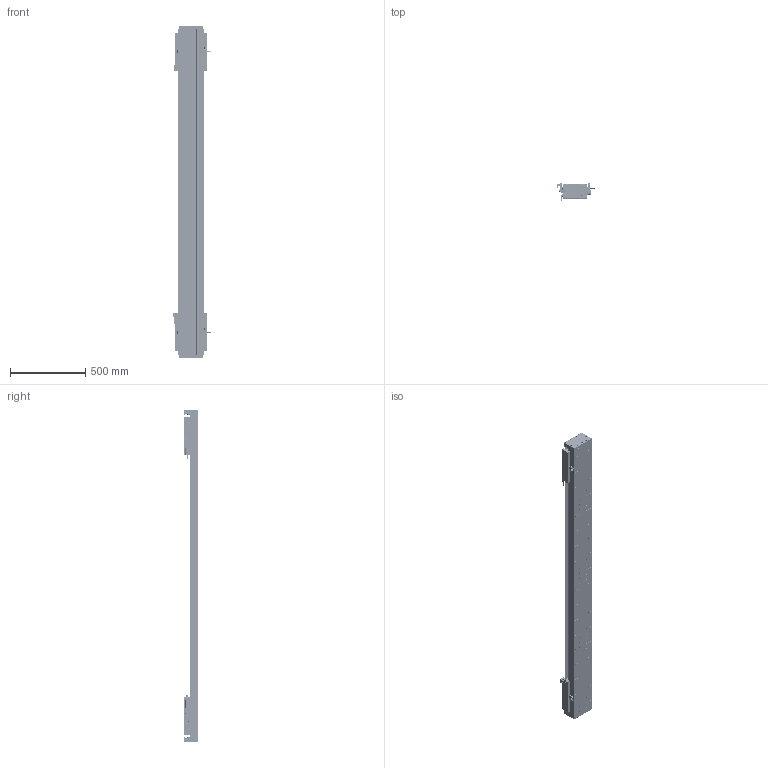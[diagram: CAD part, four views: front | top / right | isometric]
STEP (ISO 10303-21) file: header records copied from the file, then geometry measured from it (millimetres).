
FILE_DESCRIPTION (( 'STEP AP203' ), '1' );
FILE_NAME ('DA-C165-2-C3-T1580-C010-0.2 直线电机.STEP', '2023-06-13T09:23:16', ( '微软用户' ), ( '微软中国' ), 'SwSTEP 2.0', 'SolidWorks 2019', '' );
FILE_SCHEMA (( 'CONFIG_CONTROL_DESIGN' ));
Length unit declared in the file: millimetre
Products named in the file (22): 复件 DA95-HXJ-00 缓冲橡胶^DA-C165-C3-T-C010-0.2-N 直线电机; DA-C165-2-C3-T1580-C010-0.2 眻盄萇儂; 葩璃 PM-Y45^DA-C165-C3-T-C010-0.2-N 眻盄萇儂; 葩璃 CKM03-W075-C1C2-TP-3.0^DA-C165-C3-T-C010-0.2-N 眻盄萇儂; 复件 DA165-GD-DG-H-00 端盖^复件 CU165钢带组件_DA-C165-C3-T-C010-0.2-N 直线电机; IU-CU165-L 菁釱絳寢; 复件 DMA-010-0.2 读数头^DA-C165-C3-T-C010-0.2-N 直线电机; 复件 XD-U-02L 磁栅尺^DA-C165-C3-T-C010-0.2-N 直线电机_T; 复件 DA126-GYP-ZJ-00 中间光电感应片^DA-C165-C3-T-C010-0.2-N 直线电机; 复件 六角薄螺母 M3^DA-C165-C3-T-C010-0.2-N 直线电机_GB_FASTENER_NUT_STNAB M3-C; 复件 DKW-HXJ-JY-00 缓冲橡胶^DA-C165-C3-T-C010-0.2-N 直线电机; 珨极趙賑雄怢啣C3-wf; 复件 66338-1000-006-00 光电感应块^DA-C165-C3-T-C010-0.2-N 直线电机; 复件 DA165-GDLK-00 钢带拉块^复件 CU165钢带组件_DA-C165-C3-T-C010-0.2-N 直线电机; 葩璃 CKM01-W075-TRL^DA-C165-C3-T-C010-0.2-N 眻盄萇儂; 复件 CU165钢带组件^DA-C165-C3-T-C010-0.2-N 直线电机; 复件 DA165-GD-1860-002-00 钢带盖板^复件 CU165钢带组件_DA-C165-C3-T-C010-0.2-N 直线电机; 复件 DA165-GDYK-00 钢带压块^复件 CU165钢带组件_DA-C165-C3-T-C010-0.2-N 直线电机; 葩璃 DA95-GT-T-00^IU-CU165-L 菁釱絳寢_T; 复件 CU165 底座^IU-CU165-L 底座导轨_L2160; 复件 DA165-GYP-00 光电感应片^DA-C165-C3-T-C010-0.2-N 直线电机; 葩璃 PM-T45^DA-C165-C3-T-C010-0.2-N 眻盄萇儂
Assembly tree (45 placements, depth 3):
  DA-C165-2-C3-T1580-C010-0.2 眻盄萇儂
    IU-CU165-L 菁釱絳寢
      复件 CU165 底座^IU-CU165-L 底座导轨_L2160
      葩璃 DA95-GT-T-00^IU-CU165-L 菁釱絳寢_T  x4
    复件 XD-U-02L 磁栅尺^DA-C165-C3-T-C010-0.2-N 直线电机_T
    葩璃 PM-T45^DA-C165-C3-T-C010-0.2-N 眻盄萇儂  x4
    葩璃 CKM01-W075-TRL^DA-C165-C3-T-C010-0.2-N 眻盄萇儂
    复件 CU165钢带组件^DA-C165-C3-T-C010-0.2-N 直线电机
      复件 DA165-GD-DG-H-00 端盖^复件 CU165钢带组件_DA-C165-C3-T-C010-0.2-N 直线电机  x2
      复件 DA165-GDYK-00 钢带压块^复件 CU165钢带组件_DA-C165-C3-T-C010-0.2-N 直线电机  x2
      复件 DA165-GD-1860-002-00 钢带盖板^复件 CU165钢带组件_DA-C165-C3-T-C010-0.2-N 直线电机
      复件 DA165-GDLK-00 钢带拉块^复件 CU165钢带组件_DA-C165-C3-T-C010-0.2-N 直线电机  x2
    复件 DA95-HXJ-00 缓冲橡胶^DA-C165-C3-T-C010-0.2-N 直线电机  x4
    复件 DMA-010-0.2 读数头^DA-C165-C3-T-C010-0.2-N 直线电机  x2
    复件 DA165-GYP-00 光电感应片^DA-C165-C3-T-C010-0.2-N 直线电机  x2
    复件 66338-1000-006-00 光电感应块^DA-C165-C3-T-C010-0.2-N 直线电机
    葩璃 PM-Y45^DA-C165-C3-T-C010-0.2-N 眻盄萇儂
    复件 DA126-GYP-ZJ-00 中间光电感应片^DA-C165-C3-T-C010-0.2-N 直线电机
    葩璃 CKM03-W075-C1C2-TP-3.0^DA-C165-C3-T-C010-0.2-N 眻盄萇儂  x2
    复件 DKW-HXJ-JY-00 缓冲橡胶^DA-C165-C3-T-C010-0.2-N 直线电机  x2
    复件 六角薄螺母 M3^DA-C165-C3-T-C010-0.2-N 直线电机_GB_FASTENER_NUT_STNAB M3-C  x8
    珨极趙賑雄怢啣C3-wf  x2
Bounding box: 247.2 x 111.45 x 2200 mm (x, y, z)
Volume: 15241669 mm3; surface area: 4211311.8 mm2
Topology: 121 solids, 221 shells, 6341 faces, 17066 edges, 10576 vertices
Faces by surface type: cylinder 3270, plane 2003, cone 980, torus 80, sphere 8
Entity records: 137116 total; most frequent: CARTESIAN_POINT 35383, ORIENTED_EDGE 20716, DIRECTION 20622, EDGE_CURVE 10358, AXIS2_PLACEMENT_3D 7851, VERTEX_POINT 6730, VECTOR 4920, LINE 4920
